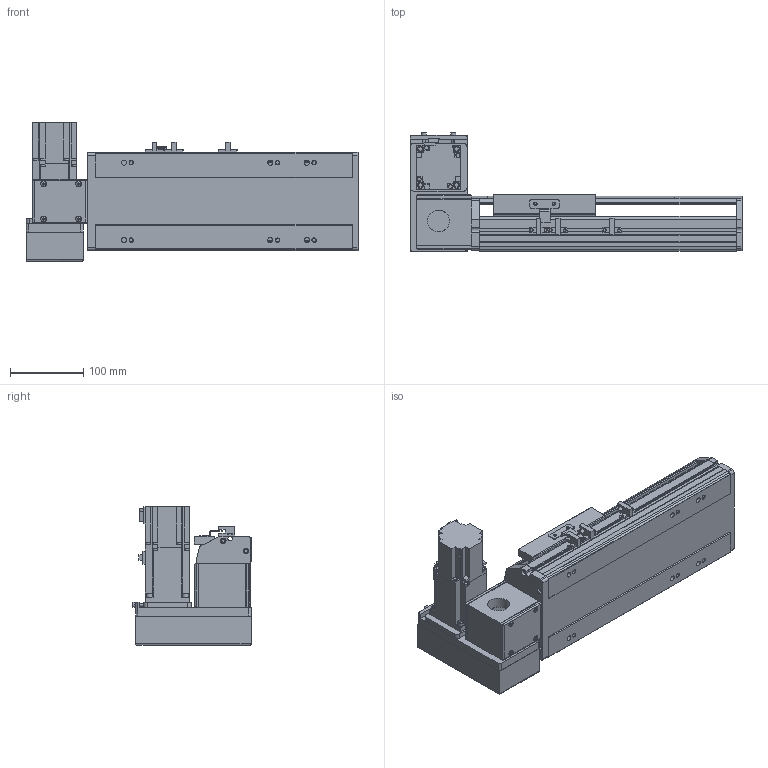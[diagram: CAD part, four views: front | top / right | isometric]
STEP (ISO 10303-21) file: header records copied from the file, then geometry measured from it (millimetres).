
FILE_DESCRIPTION( ( 'STEP AP214' ), '1' );
FILE_NAME( 'x:/temp/worker_2/temp/exporttempdir_6476_461_QmwFs/format_0/PBS140-P40-S100-LU-T40-C1-N(0).stp', '2022-06-07T05:15:33', ( 'License CC BY-ND 4.0' ), ( 'CADENAS' ), ' ', 'PARTsolutions', ' ' );
FILE_SCHEMA( ( 'AUTOMOTIVE_DESIGN { 1 0 10303 214 1 1 1 1 }' ) );
Length unit declared in the file: millimetre
Products named in the file (7): PBS140-P40-S100-LU-T40-C1-N(0); _PBS140-S100()_body; _PBS140T-LU_motors; _T40-p1; _PBS140_sliser; _PBS140_plant; _PBS140_sensor
Assembly tree (8 placements, depth 2):
  PBS140-P40-S100-LU-T40-C1-N(0)
    _PBS140-S100()_body
    _PBS140T-LU_motors
    _T40-p1
    _PBS140_sliser
    _PBS140_plant
    _PBS140_sensor  x3
Bounding box: 454 x 162.5 x 189.7 mm (x, y, z)
Volume: 2738838.3 mm3; surface area: 516117.1 mm2
Topology: 8 solids, 8 shells, 995 faces, 2636 edges, 1723 vertices
Faces by surface type: plane 662, cylinder 291, cone 32, sphere 8, torus 2
Full cylindrical faces by diameter (mm): 3.242 x4, 4 x2, 4.134 x4, 4.4 x8, 4.5 x2, 4.8 x4, 4.917 x14, 5.5 x7, 6 x2, 7 x8, 7.5 x8, 8 x12, 8.5 x4, 10.5 x6, 14 x1, 30 x2, 50 x2
Entity records: 36079 total; most frequent: CARTESIAN_POINT 5411, DIRECTION 4847, ORIENTED_EDGE 4612, EDGE_CURVE 2306, AXIS2_PLACEMENT_3D 1657, VERTEX_POINT 1581, LINE 1533, VECTOR 1533
